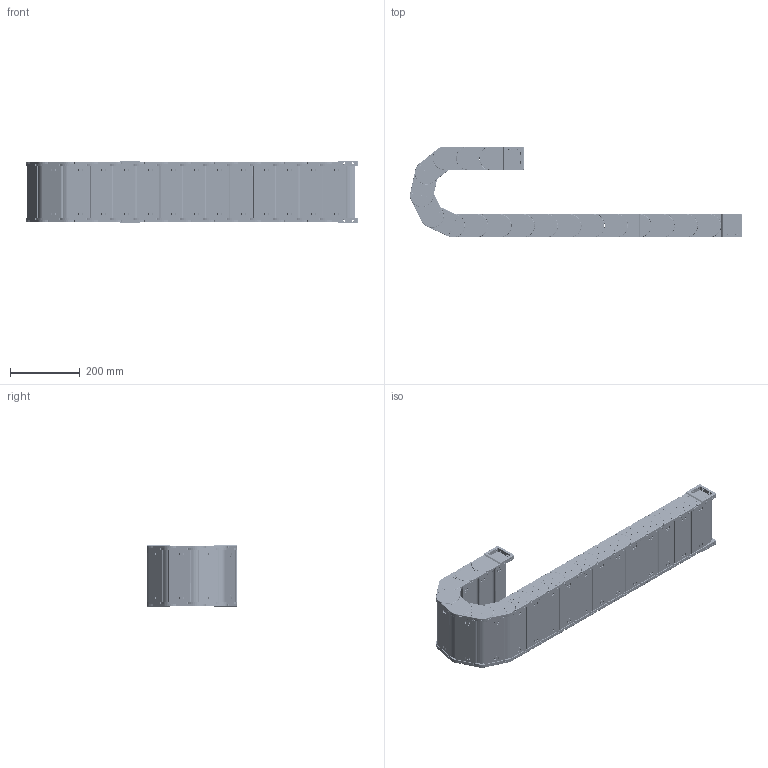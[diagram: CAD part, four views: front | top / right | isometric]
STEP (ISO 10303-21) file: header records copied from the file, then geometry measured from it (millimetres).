
FILE_DESCRIPTION (( 'STEP AP214' ), '1' );
FILE_NAME ('J45F.1.150S-3D賦凳芞.STEP', '2019-01-09T08:34:24', ( 'Sky123.Org' ), ( 'Sky123.Org' ), 'SwSTEP 2.0', 'SolidWorks 2017', '' );
FILE_SCHEMA (( 'AUTOMOTIVE_DESIGN' ));
Length unit declared in the file: millimetre
Products named in the file (11): 45-N源諉芛俋; 5-N45X100-源諉囀 - 萵掛; 45-臏簽1; 45-N源諉芛囀; N45FX75-等誹1 - 萵掛; H35X75-FBP-W猾敕え; H35-J45-FBP-N猾敕え; 45-崝Ч翋极2; 45-崝Ч翋极1; J45F.1.150S-3D賦凳芞; 5-N45X100-源諉俋 - 萵掛
Assembly tree (55 placements, depth 3):
  J45F.1.150S-3D賦凳芞
    N45FX75-等誹1 - 萵掛  x17
      45-崝Ч翋极1
      45-崝Ч翋极2
      H35-J45-FBP-N猾敕え
      H35X75-FBP-W猾敕え
    5-N45X100-源諉囀 - 萵掛
      45-N源諉芛囀  x2
      45-臏簽1  x12
      H35-J45-FBP-N猾敕え
      H35X75-FBP-W猾敕え
    5-N45X100-源諉俋 - 萵掛
      45-N源諉芛俋  x2
      45-臏簽1  x12
      H35-J45-FBP-N猾敕え
      H35X75-FBP-W猾敕え
Bounding box: 954.91 x 261 x 179 mm (x, y, z)
Volume: 3545964.7 mm3; surface area: 2033266.3 mm2
Topology: 100 solids, 100 shells, 23329 faces, 63191 edges, 39614 vertices
Faces by surface type: plane 12592, bspline 5004, cylinder 4977, torus 748, sphere 8
Entity records: 55392 total; most frequent: CARTESIAN_POINT 19957, ORIENTED_EDGE 7662, DIRECTION 6605, EDGE_CURVE 3831, VECTOR 2491, LINE 2491, VERTEX_POINT 2452, AXIS2_PLACEMENT_3D 2057
